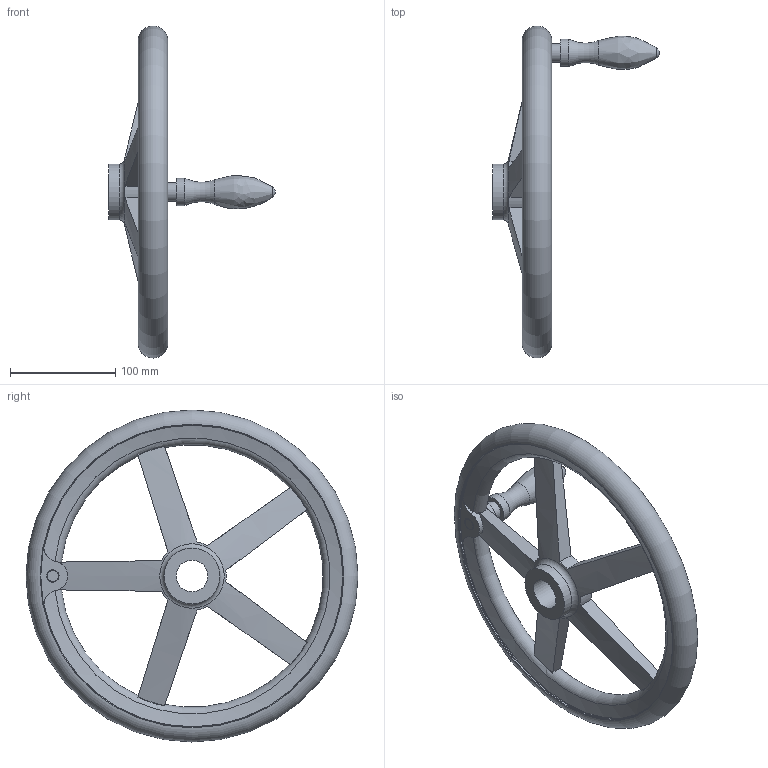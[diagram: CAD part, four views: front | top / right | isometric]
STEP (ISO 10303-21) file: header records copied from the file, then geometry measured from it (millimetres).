
FILE_DESCRIPTION( ( 'STEP AP203' ), '1' );
FILE_NAME( 'C:/Temp/Ganter_Step_05_03_2020/data/1_3/din_950/din_950_b/din_950_b_d/Handwheel DIN 950-AL-315-B30-D.stp', '2020-03-05T10:29:54', ( 'License CC BY-ND 4.0' ), ( 'CADENAS' ), ' ', 'PARTsolutions', ' ' );
FILE_SCHEMA( ( 'CONFIG_CONTROL_DESIGN' ) );
Length unit declared in the file: millimetre
Products named in the file (1): _Handwheel DIN 950-AL-315-B30-D
Bounding box: 158 x 315 x 315 mm (x, y, z)
Volume: 854328.8 mm3; surface area: 144284.9 mm2
Topology: 1 solids, 1 shells, 63 faces, 182 edges, 117 vertices
Faces by surface type: torus 21, cylinder 18, plane 16, cone 6, bspline 1, sphere 1
Full cylindrical faces by diameter (mm): 18 x1, 26 x1, 30 x1, 53 x2, 287 x2
Entity records: 2570 total; most frequent: CARTESIAN_POINT 1052, ORIENTED_EDGE 310, DIRECTION 278, EDGE_CURVE 155, AXIS2_PLACEMENT_3D 132, VERTEX_POINT 113, EDGE_LOOP 92, FACE_OUTER_BOUND 79
